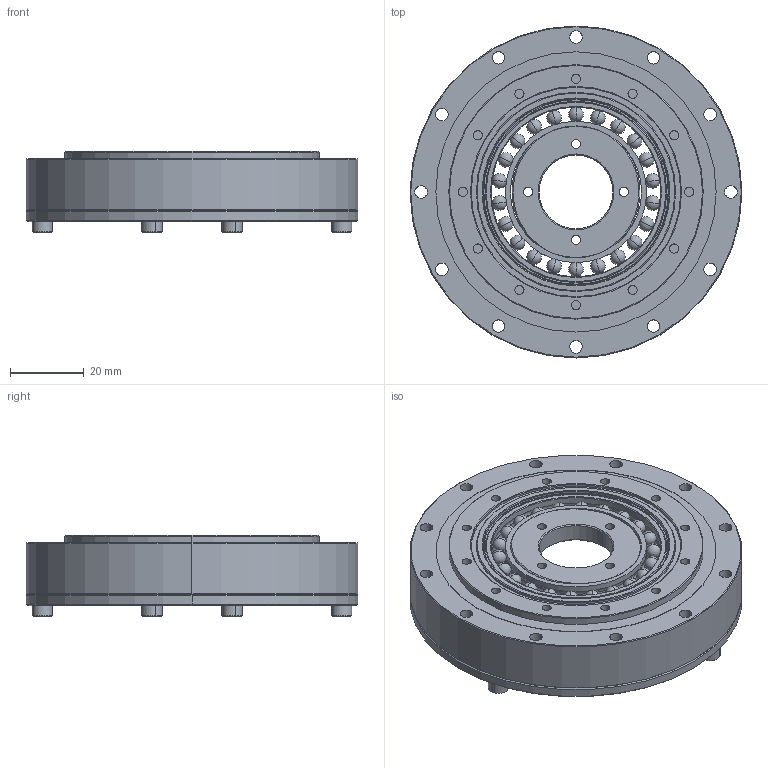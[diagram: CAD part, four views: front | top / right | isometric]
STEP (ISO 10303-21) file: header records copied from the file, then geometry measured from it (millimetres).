
FILE_DESCRIPTION (( 'STEP AP203' ), '1' );
FILE_NAME ('BHD-20-XXX-U-¢ñ.STEP', '2019-01-15T06:12:37', ( 'User' ), ( 'China' ), 'SwSTEP 2.0', 'SolidWorks 2015', '' );
FILE_SCHEMA (( 'CONFIG_CONTROL_DESIGN' ));
Length unit declared in the file: millimetre
Products named in the file (1): BHD-20-XXX-U-ｉ
Bounding box: 90 x 90 x 22 mm (x, y, z)
Surface area: 29415.8 mm2 (no closed solid volume)
Topology: 0 solids, 33 shells, 284 faces, 780 edges, 510 vertices
Faces by surface type: cylinder 118, plane 54, cone 50, sphere 44, torus 12, bspline 6
Entity records: 11756 total; most frequent: CARTESIAN_POINT 4839, DIRECTION 1600, ORIENTED_EDGE 1207, AXIS2_PLACEMENT_3D 673, EDGE_CURVE 662, VERTEX_POINT 444, CIRCLE 394, EDGE_LOOP 371
